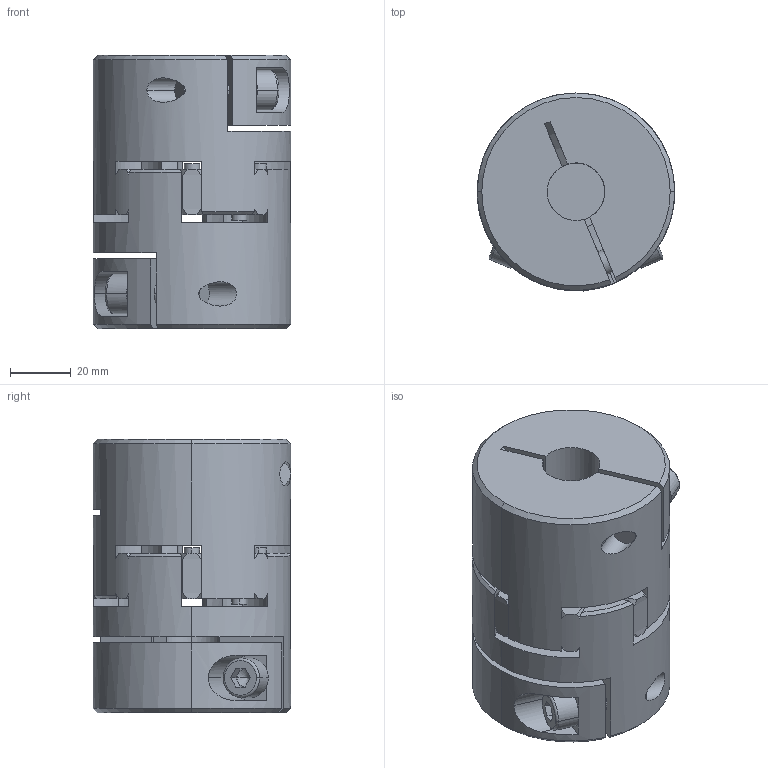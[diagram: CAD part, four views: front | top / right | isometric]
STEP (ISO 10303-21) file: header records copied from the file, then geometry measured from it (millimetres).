
FILE_DESCRIPTION((''),'2;1');
FILE_NAME('EKC-80','2026-03-30T11:05:54',('Administrator'),(''),'CREO PARAMETRIC BY PTC INC, 2020414','CREO PARAMETRIC BY PTC INC, 2020414','');
FILE_SCHEMA(('AUTOMOTIVE_DESIGN { 1 0 10303 214 1 1 1 1 }'));
Length unit declared in the file: millimetre
Products named in the file (1): EKC-80
Bounding box: 65 x 65.05 x 90.08 mm (x, y, z)
Volume: 243763 mm3; surface area: 56304.9 mm2
Topology: 1 solids, 1 shells, 268 faces, 797 edges, 534 vertices
Faces by surface type: cylinder 121, plane 81, cone 62, torus 4
Entity records: 9864 total; most frequent: CARTESIAN_POINT 2341, ORIENTED_EDGE 1582, DIRECTION 1574, EDGE_CURVE 791, AXIS2_PLACEMENT_3D 648, VERTEX_POINT 530, CIRCLE 379, EDGE_LOOP 295
